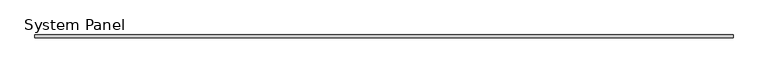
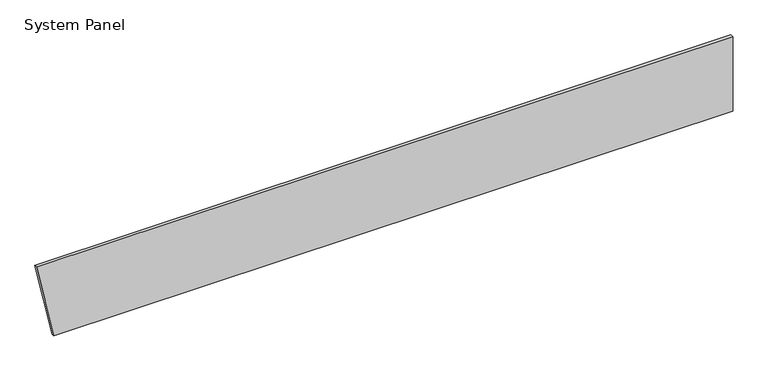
"""IFC4 building model written with IfcOpenShell, lengths in millimetres: plate geometry, System Panel : Purline 25mm Horizontal - Plain RHEA - PUR."""

from ifc_helpers import new_model, si_unit, frame, origin, place, context, project, spatial, polyline, outline, extrude, source, transform, mapped, element, save


def system_panel_552d239f(model_context):
    return source(origin(), model_context, "Body", "SweptSolid", [
        extrude(outline(polyline([(0.0, -2842.1791546), (0.0, 2990.0), (679.9704237, 2990.0), (679.9704237, -2990.0), (0.0, -2842.1791546)])), frame((0.0, -25.0, 0.0), z_axis=(0.0, 1.0, 0.0), x_axis=(0.0, 0.0, 1.0)), (0.0, 0.0, 1.0), 25.0),
    ])


if __name__ == "__main__":
    model = new_model("IFC4")
    model_context = context("Model", 3, world=origin())
    ifc_project = project(units=[si_unit("LENGTHUNIT", "METRE", prefix="MILLI")], contexts=[model_context])
    site = spatial("IfcSite", under=ifc_project)
    building = spatial("IfcBuilding", under=site)
    placement = place(None, origin())
    system_panel_shape = system_panel_552d239f(model_context)
    element("IfcPlate", 1, ObjectType="System Panel : Purline 25mm Horizontal - Plain RHEA - PUR", at=placement, inside=building, context=model_context, shape_type="MappedRepresentation", body=[
        mapped(system_panel_shape, transform((0.0, 0.0, 0.0), x_axis=(1.0, 0.0, 0.0), y_axis=(0.0, 1.0, 0.0), z_axis=(0.0, 0.0, 1.0))),
    ])
    save(model, "model.ifc")
